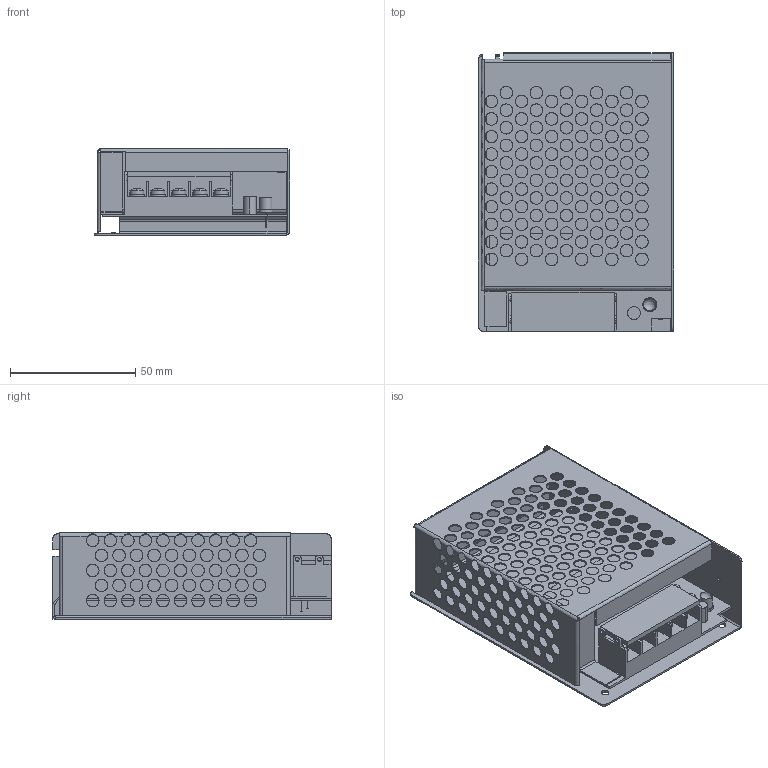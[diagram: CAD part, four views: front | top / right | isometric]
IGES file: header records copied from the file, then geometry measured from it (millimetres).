
Start section: SolidWorks IGES file using analytic representation for surfaces
Global section: file name: C:\Users\chris\Desktop\Nova pasta (2)\MS-60-12.IGS; native system: SolidWorks 2019; preprocessor: SolidWorks 2019; author: chris; date: 200226.110010; units: millimetre
Bounding box: 78 x 111 x 34.34 mm (x, y, z)
Surface area: 67641.1 mm2 (no closed solid volume)
Topology: 0 solids, 0 shells, 738 faces, 15901 edges, 15899 vertices
Faces by surface type: revolution 455, bspline 283
